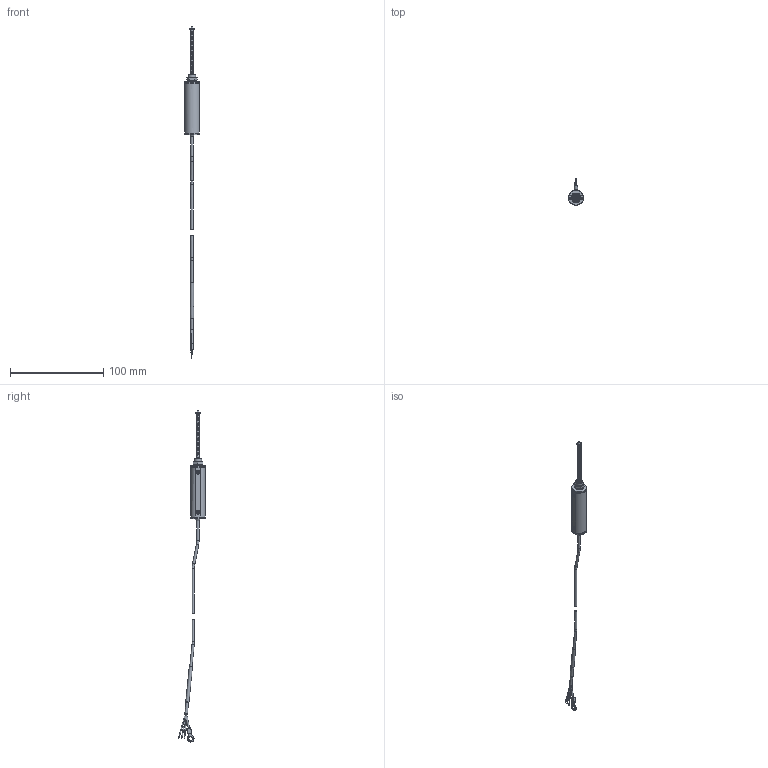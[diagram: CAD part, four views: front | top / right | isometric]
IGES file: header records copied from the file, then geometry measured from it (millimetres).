
Global section: file name: LPPS-MSL-025; native system: Autodesk Inventor 2020; preprocessor: unknown; author: J. Nielson; date: 20190829.152157; units: inch
Bounding box: 15.1 x 28.77 x 356.78 mm (x, y, z)
Volume: 6032.9 mm3; surface area: 11797.3 mm2
Topology: 24 solids, 24 shells, 339 faces, 855 edges, 577 vertices
Faces by surface type: bspline 339
